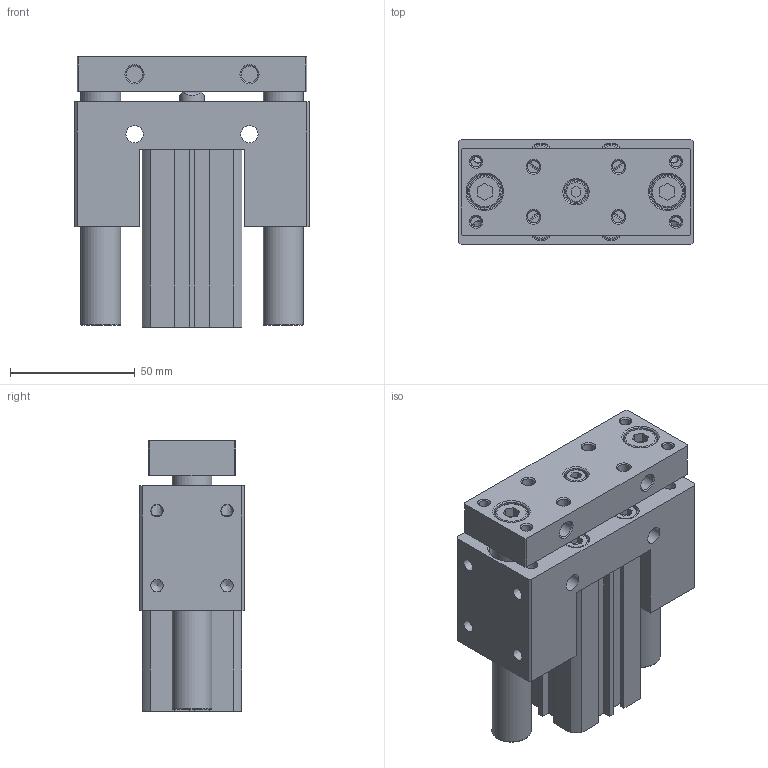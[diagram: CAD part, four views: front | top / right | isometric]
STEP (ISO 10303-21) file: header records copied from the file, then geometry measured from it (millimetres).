
FILE_DESCRIPTION((''),'2;1');
FILE_NAME('I:\3D電子目錄\氣缸\JCB\JCB\JCB25-S\JCB25x40-S.stp','2007-08-21T19:25:25',('Administrator'),(''),'Autodesk Inventor 11','Autodesk Inventor 11','');
FILE_SCHEMA(('AUTOMOTIVE_DESIGN { 1 0 10303 214 1 1 1 1 }'));
Length unit declared in the file: millimetre
Products named in the file (1): JCB25
Bounding box: 94 x 42 x 108.2 mm (x, y, z)
Volume: 278931.4 mm3; surface area: 80577.1 mm2
Topology: 5 solids, 5 shells, 323 faces, 740 edges, 483 vertices
Faces by surface type: plane 172, bspline 61, cylinder 47, cone 35, torus 8
Full cylindrical faces by diameter (mm): 1.5 x2, 4.917 x4, 5.1 x4, 6.647 x2, 8 x8, 8.5 x1, 10 x5, 11 x1, 13 x2, 16 x2, 17 x2, 18 x2, 28 x4, 29.4 x2
Entity records: 8980 total; most frequent: CARTESIAN_POINT 2309, DIRECTION 1332, ORIENTED_EDGE 1160, EDGE_CURVE 580, EDGE_LOOP 544, AXIS2_PLACEMENT_3D 493, VERTEX_POINT 454, VECTOR 346
